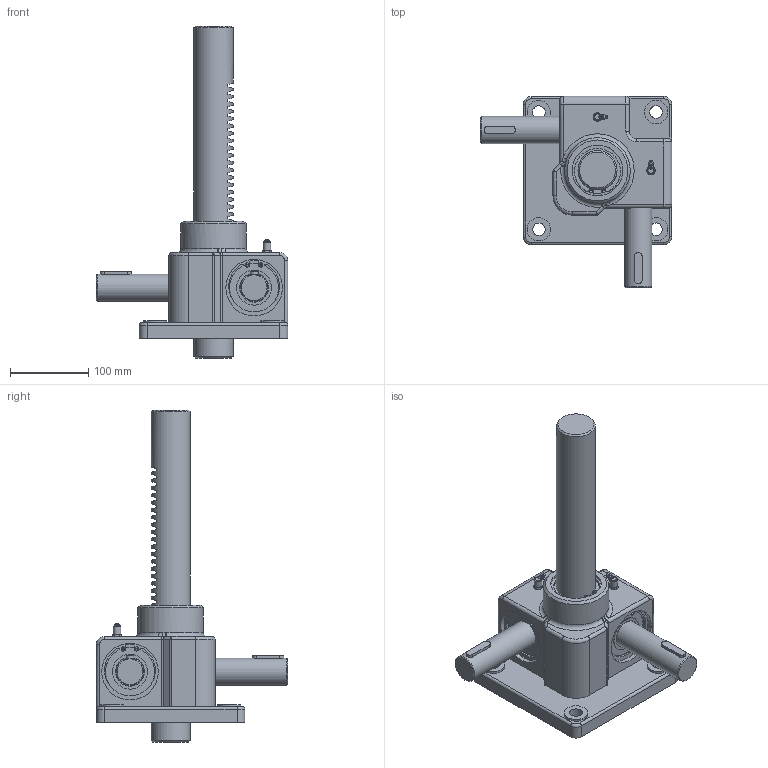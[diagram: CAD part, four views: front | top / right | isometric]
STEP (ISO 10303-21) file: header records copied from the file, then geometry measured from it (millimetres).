
FILE_DESCRIPTION(('STEP AP203'),'1');
FILE_NAME('SP1-10000U-250ST.stp','2022-06-15T06:34:51',(' '),(' '),'Spatial InterOp 3D',' ',' ');
FILE_SCHEMA(('CONFIG_CONTROL_DESIGN'));
Length unit declared in the file: millimetre
Products named in the file (16): SP1-10000U-250ST; Rack Gear(SP-10000); Body-Part; #445; SnapRing-68Pie; SnapRing-75Pie; #502; Key; Nipples; Shaft(SP1-10000); Gear Box(SP-10000); RJ05-4SCJ-610X600-100ST_CAP; LABEL-B.1; ___; 파트18; __
Assembly tree (22 placements, depth 5):
  SP1-10000U-250ST
    Rack Gear(SP-10000)
    Body-Part
      #445  x2
      SnapRing-68Pie  x2
      SnapRing-75Pie  x2
      #502  x2
      Key  x2
      Nipples  x2
      Shaft(SP1-10000)  x2
      Gear Box(SP-10000)
    __
      ___
        RJ05-4SCJ-610X600-100ST_CAP
          LABEL-B.1
        파트18
Bounding box: 245.11 x 245.21 x 425 mm (x, y, z)
Volume: 2530247.3 mm3; surface area: 432969.2 mm2
Topology: 24 solids, 24 shells, 2520 faces, 6889 edges, 4400 vertices
Faces by surface type: plane 1923, cylinder 335, sphere 96, torus 62, revolution 42, extrusion 38, bspline 14, cone 10
Full cylindrical faces by diameter (mm): 3.817 x4, 4.211 x4, 4.8 x2, 8 x2, 9.886 x2, 16 x4, 18 x1, 29 x2, 30 x4, 35 x4, 39 x2, 44.54 x4, 50 x3, 55 x1, 60 x4, 62.72 x4, 65 x2, 68 x2, 72 x4, 72.4 x2, 75 x2, 84 x1
Entity records: 76764 total; most frequent: CARTESIAN_POINT 15826, ORIENTED_EDGE 12692, DIRECTION 11837, EDGE_CURVE 6346, VECTOR 5380, LINE 5361, VERTEX_POINT 4146, AXIS2_PLACEMENT_3D 3218
